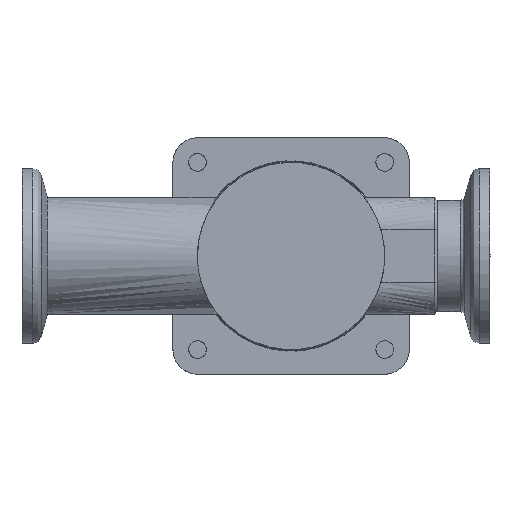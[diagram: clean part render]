
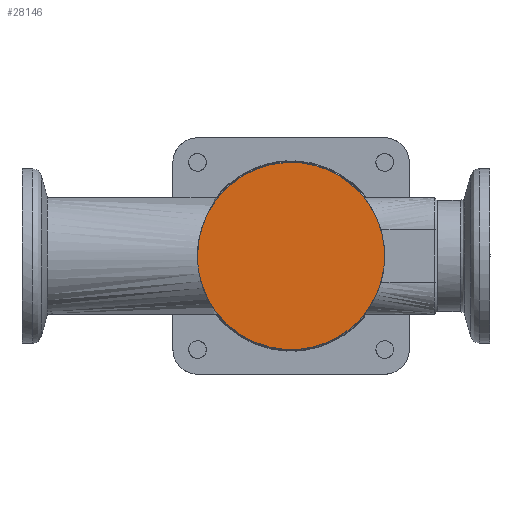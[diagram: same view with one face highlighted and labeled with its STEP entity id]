
A CAD part, front view. The second image highlights one B-rep face of the part: STEP entity #28146.
In plain terms, the highlighted free-form (B-spline) face has degree [1, 1] with [2, 2] control points.
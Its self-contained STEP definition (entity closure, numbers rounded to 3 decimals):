
#28120=CARTESIAN_POINT('F3',(0.,-17.6,
   17.6));
#28121=CARTESIAN_POINT('F3',(0.,17.6,
   17.6));
#28122=CARTESIAN_POINT('F3',(0.,-17.6,
   -17.6));
#28123=CARTESIAN_POINT('F3',(0.,17.6,
   -17.6));
#28124=QUASI_UNIFORM_SURFACE('F3',1,1,((#28120,#28122),(#28121,
   #28123)),.PLANE_SURF.,.F.,.F.,.U.);
#28125=CARTESIAN_POINT('V9',(0.,16.0,0.0));
#28126=VERTEX_POINT('V9',#28125);
#28127=CARTESIAN_POINT('E12',(0.,16.0,0.0));
#28128=CARTESIAN_POINT('E12',(0.,16.0,27.713)
   );
#28129=CARTESIAN_POINT('E12',(0.,-8.,
   13.856));
#28130=CARTESIAN_POINT('E12',(0.,-32.,
   0.));
#28131=CARTESIAN_POINT('E12',(0.,-8.,
   -13.856));
#28132=CARTESIAN_POINT('E12',(0.,16.,
   -27.713));
#28133=CARTESIAN_POINT('E12',(0.,16.0,0.0));
#28141=(BOUNDED_CURVE()B_SPLINE_CURVE(2,(#28127,#28128,#28129,
   #28130,#28131,#28132,#28133),.CIRCULAR_ARC.,.T.,.U.)
   B_SPLINE_CURVE_WITH_KNOTS((3,2,2,3),(0.0,0.333,
   0.667,1.0),.UNSPECIFIED.)CURVE()
   GEOMETRIC_REPRESENTATION_ITEM()RATIONAL_B_SPLINE_CURVE((1.0,
   0.5,1.0,0.5,1.0,0.5,1.0)
   )REPRESENTATION_ITEM('E12'));
#28142=EDGE_CURVE('E12',#28126,#28126,#28141,.T.);
#28143=ORIENTED_EDGE('E12',*,*,#28142,.T.);
#28144=EDGE_LOOP('F3',(#28143));
#28145=FACE_OUTER_BOUND('F3',#28144,.F.);
#28146=ADVANCED_FACE('F3',(#28145),#28124,.T.);
